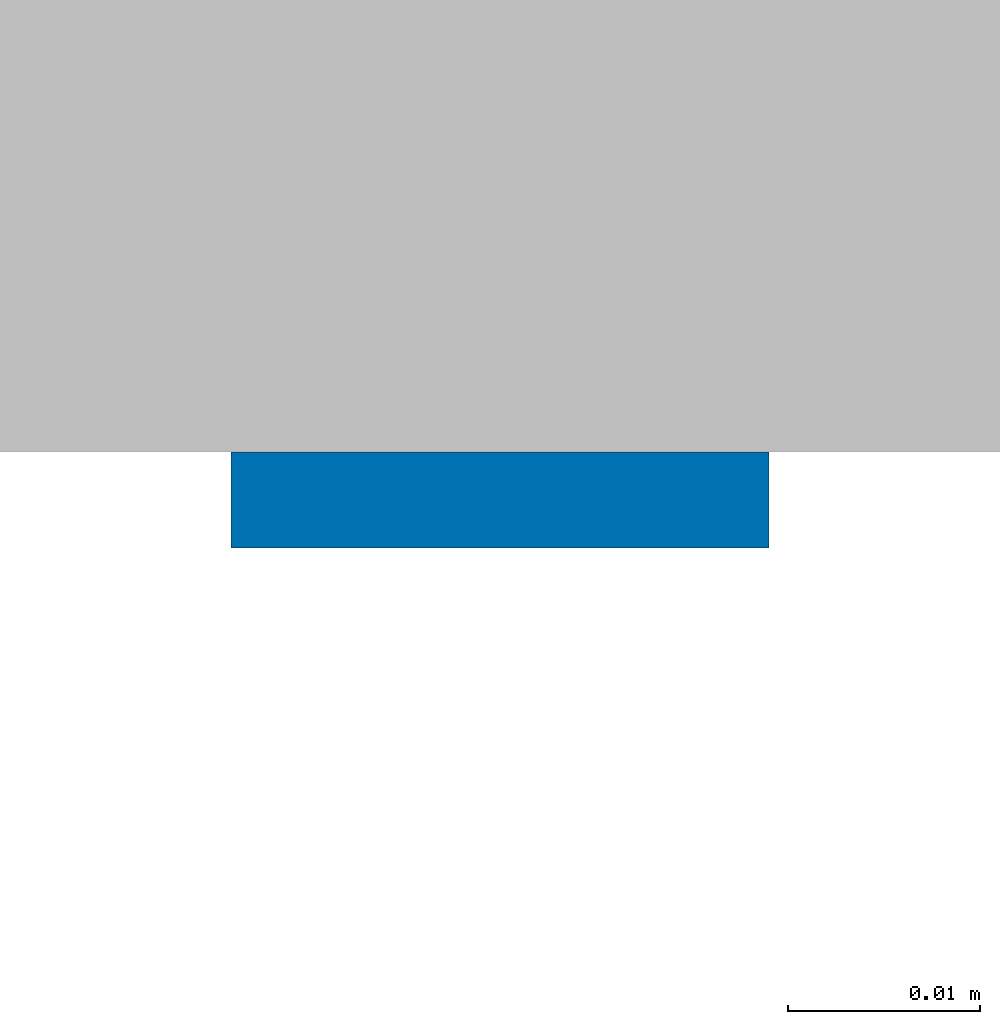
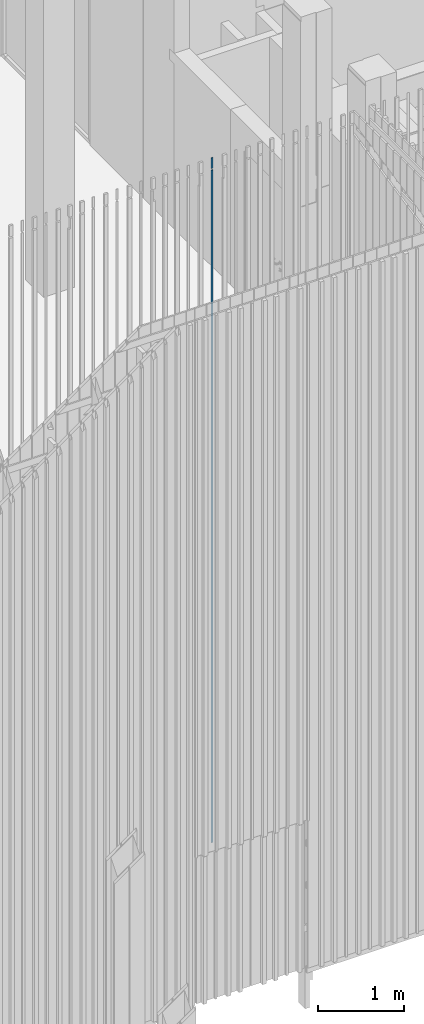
# One storey, part 99 of 390: 1 wall.
"""IFC2X3 building model written with IfcOpenShell, lengths in millimetres."""

from ifc_helpers import new_model, entity, si_unit, converted_unit, derived_unit, money_unit, direction, frame, origin_with_axes, place, context, subcontext, project, spatial, faceted_brep, material, material_list, type_object, element, save


model = new_model("IFC2X3")

# Units and contexts
model_context = context("Model", 3, precision=1e-05, world=origin_with_axes(), true_north=direction((0.0, 1.0)))
body_context = subcontext(model_context, "Body", "Model", "MODEL_VIEW")
ifc_project = project(units=[si_unit("LENGTHUNIT", "METRE", prefix="MILLI"), si_unit("AREAUNIT", "SQUARE_METRE"), si_unit("VOLUMEUNIT", "CUBIC_METRE"), converted_unit("PLANEANGLEUNIT", "DEGREE", entity("IfcPlaneAngleMeasure", 0.0174532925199), si_unit("PLANEANGLEUNIT", "RADIAN"), dimensions=[0, 0, 0, 0, 0, 0, 0]), si_unit("SOLIDANGLEUNIT", "STERADIAN"), money_unit("EUR"), converted_unit("TIMEUNIT", "Year", entity("IfcTimeMeasure", 31556926.0), si_unit("TIMEUNIT", "SECOND"), dimensions=[0, 0, 1, 0, 0, 0, 0]), si_unit("MASSUNIT", "GRAM", prefix="KILO"), si_unit("THERMODYNAMICTEMPERATUREUNIT", "DEGREE_CELSIUS"), si_unit("LUMINOUSINTENSITYUNIT", "LUMEN"), si_unit("ENERGYUNIT", "JOULE", prefix="MEGA"), derived_unit("THERMALCONDUCTANCEUNIT", [(si_unit("POWERUNIT", "WATT"), 1), (si_unit("LENGTHUNIT", "METRE"), -1), (si_unit("THERMODYNAMICTEMPERATUREUNIT", "KELVIN"), -1)]), derived_unit("SPECIFICHEATCAPACITYUNIT", [(si_unit("ENERGYUNIT", "JOULE"), 1), (si_unit("MASSUNIT", "GRAM", prefix="KILO"), -1), (si_unit("THERMODYNAMICTEMPERATUREUNIT", "KELVIN"), -1)]), derived_unit("MASSDENSITYUNIT", [(si_unit("MASSUNIT", "GRAM", prefix="KILO"), 1), (si_unit("VOLUMEUNIT", "CUBIC_METRE"), -1)])], contexts=[model_context])

# Site, building, storey
site_placement = place(None, origin_with_axes())
site = spatial("IfcSite", under=ifc_project, at=site_placement, Name="Site", CompositionType="ELEMENT")
building_placement = place(site_placement, origin_with_axes())
building = spatial("IfcBuilding", under=site, at=building_placement, Name="Building", CompositionType="ELEMENT")
storey_placement = place(building_placement, origin_with_axes())
storey = spatial("IfcBuildingStorey", under=building, at=storey_placement, Name="1 korrus", CompositionType="ELEMENT", Elevation=0.0)

# Wall
ifc_material = material(Name="Site specified")
ifc_material_list = material_list([ifc_material, ifc_material])
wall_type = type_object("IfcWallType", Name="Puitfassaadi ribistik", PredefinedType="NOTDEFINED")
wall_placement = place(storey_placement, frame((126943.999994, 45272.0000084, 100.000000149), z_axis=(0.0, 0.0, 1.0), x_axis=(-1.0, 0.0, 0.0)))
element("IfcWall", 1, at=wall_placement, inside=storey, type_object=wall_type, material=ifc_material_list, Name="Site specified", context=body_context, shape_type="Brep", body=[
    faceted_brep([(14.0, 9.00009631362, -3.12924797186e-06), (14.0, 8.99999999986, 9591.91726162), (-14.0, 8.99999999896, 9591.91726162), (-14.0, 9.00009631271, -3.12924797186e-06), (14.0, 14.0, 0.0), (14.0, 14.0, 9590.85447881), (-14.0, 14.0, 9590.85447881), (-14.0, 14.0, 0.0)], [[[0, 1, 2, 3]], [[4, 5, 1, 0]], [[5, 6, 2, 1]], [[3, 2, 6, 7]], [[0, 3, 7, 4]], [[7, 6, 5, 4]]]),
    faceted_brep([(-14.0, 14.0, 9764.99999985), (-14.0, 14.0, 9612.3236313), (-14.0, 8.99999999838, 9613.38641411), (-14.0, 8.99999999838, 9764.99999985), (14.0, 14.0, 9764.99999985), (14.0, 14.0, 9612.3236313), (14.0, 8.99999999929, 9613.38641411), (14.0, 8.99999999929, 9764.99999985)], [[[0, 1, 2, 3]], [[4, 5, 1, 0]], [[5, 6, 2, 1]], [[3, 2, 6, 7]], [[3, 7, 4, 0]], [[7, 6, 5, 4]]]),
])

save(model, "model.ifc")
